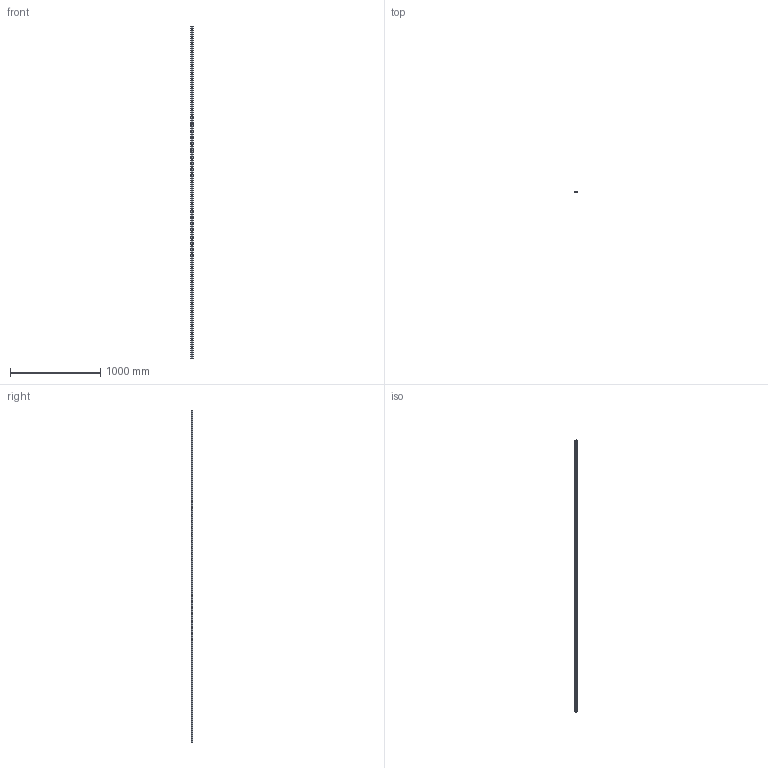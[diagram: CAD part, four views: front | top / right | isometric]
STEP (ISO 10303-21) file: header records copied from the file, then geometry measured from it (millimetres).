
FILE_DESCRIPTION(('STEP AP214'),'1');
FILE_NAME('rail_tex26-3680.stp','2019-03-08T08:29:49',('TraceParts'),('TraceParts S.A.'),'Spatial InterOp 3D',' ',' ');
FILE_SCHEMA(('automotive_design'));
Length unit declared in the file: millimetre
Products named in the file (1): rail_tex26-3680
Bounding box: 26.06 x 14 x 3680 mm (x, y, z)
Volume: 380966.8 mm3; surface area: 324357.6 mm2
Topology: 1 solids, 1 shells, 802 faces, 2076 edges, 1384 vertices
Faces by surface type: plane 566, bspline 132, cylinder 104
Entity records: 51053 total; most frequent: CARTESIAN_POINT 25467, ORIENTED_EDGE 4152, DIRECTION 3362, EDGE_CURVE 2076, LINE 1604, VECTOR 1604, VERTEX_POINT 1384, EDGE_LOOP 1002
